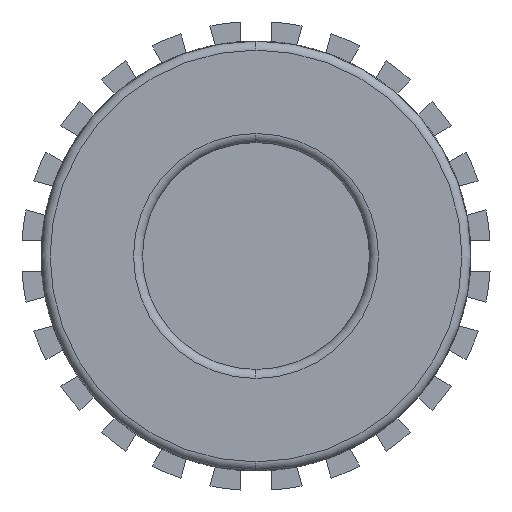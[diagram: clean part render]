
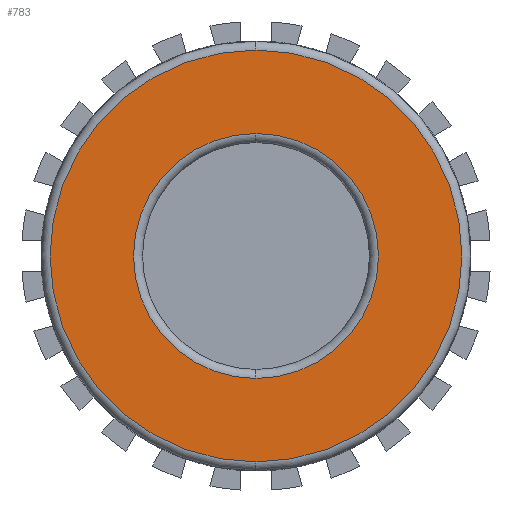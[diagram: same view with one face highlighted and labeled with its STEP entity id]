
A CAD part, left-side view. The second image highlights one B-rep face of the part: STEP entity #783.
In plain terms, the highlighted planar face has unit normal (-1, 0, 0).
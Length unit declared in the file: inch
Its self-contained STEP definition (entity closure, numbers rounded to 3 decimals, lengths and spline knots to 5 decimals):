
#246 = ORIENTED_EDGE ( 'NONE', *, *, #2324, .T. ) ;
#247 = ORIENTED_EDGE ( 'NONE', *, *, #338, .T. ) ;
#248 = ORIENTED_EDGE ( 'NONE', *, *, #336, .T. ) ;
#249 = ORIENTED_EDGE ( 'NONE', *, *, #2322, .T. ) ;
#336 = EDGE_CURVE ( 'NONE', #1458, #1679, #3317, .T. ) ;
#338 = EDGE_CURVE ( 'NONE', #1676, #1403, #3320, .T. ) ;
#532 = DIRECTION ( 'NONE',  ( 0., 0., -1. ) ) ;
#533 = DIRECTION ( 'NONE',  ( 1., 0., 0. ) ) ;
#534 = CARTESIAN_POINT ( 'NONE',  ( -3.24667, 0., 0. ) ) ;
#540 = DIRECTION ( 'NONE',  ( 0., 0., -1. ) ) ;
#541 = DIRECTION ( 'NONE',  ( -1., 0., 0. ) ) ;
#542 = CARTESIAN_POINT ( 'NONE',  ( -3.24667, 0., 0. ) ) ;
#783 = ADVANCED_FACE ( 'NONE', ( #3679, #3681 ), #1167, .F. ) ;
#1162 = DIRECTION ( 'NONE',  ( 1., 0., 0. ) ) ;
#1165 = CARTESIAN_POINT ( 'NONE',  ( -3.24667, 0., 0. ) ) ;
#1167 = PLANE ( 'NONE',  #2505 ) ;
#1169 = DIRECTION ( 'NONE',  ( 0., 0., -1. ) ) ;
#1207 = CARTESIAN_POINT ( 'NONE',  ( -3.24667, 0., -0.54333 ) ) ;
#1230 = CARTESIAN_POINT ( 'NONE',  ( -3.24667, 0., -0.91333 ) ) ;
#1256 = CARTESIAN_POINT ( 'NONE',  ( -3.24667, 0., 0.54333 ) ) ;
#1268 = CARTESIAN_POINT ( 'NONE',  ( -3.24667, 0., 0.91333 ) ) ;
#1403 = VERTEX_POINT ( 'NONE', #1207 ) ;
#1407 = EDGE_LOOP ( 'NONE', ( #246, #247 ) ) ;
#1458 = VERTEX_POINT ( 'NONE', #1230 ) ;
#1669 = EDGE_LOOP ( 'NONE', ( #248, #249 ) ) ;
#1676 = VERTEX_POINT ( 'NONE', #1256 ) ;
#1679 = VERTEX_POINT ( 'NONE', #1268 ) ;
#1793 = CARTESIAN_POINT ( 'NONE',  ( -3.24667, 0., 0. ) ) ;
#1794 = DIRECTION ( 'NONE',  ( -1., 0., 0. ) ) ;
#1795 = DIRECTION ( 'NONE',  ( 0., 0., -1. ) ) ;
#1801 = CARTESIAN_POINT ( 'NONE',  ( -3.24667, 0., 0. ) ) ;
#1802 = DIRECTION ( 'NONE',  ( 1., 0., 0. ) ) ;
#1803 = DIRECTION ( 'NONE',  ( 0., 0., -1. ) ) ;
#2322 = EDGE_CURVE ( 'NONE', #1679, #1458, #2721, .T. ) ;
#2324 = EDGE_CURVE ( 'NONE', #1403, #1676, #2723, .T. ) ;
#2353 = AXIS2_PLACEMENT_3D ( 'NONE', #542, #541, #540 ) ;
#2355 = AXIS2_PLACEMENT_3D ( 'NONE', #534, #533, #532 ) ;
#2505 = AXIS2_PLACEMENT_3D ( 'NONE', #1165, #1162, #1169 ) ;
#2558 = AXIS2_PLACEMENT_3D ( 'NONE', #1793, #1794, #1795 ) ;
#2560 = AXIS2_PLACEMENT_3D ( 'NONE', #1801, #1802, #1803 ) ;
#2721 = CIRCLE ( 'NONE', #2558, 0.91333 ) ;
#2723 = CIRCLE ( 'NONE', #2560, 0.54333 ) ;
#3317 = CIRCLE ( 'NONE', #2353, 0.91333 ) ;
#3320 = CIRCLE ( 'NONE', #2355, 0.54333 ) ;
#3679 = FACE_BOUND ( 'NONE', #1407, .T. ) ;
#3681 = FACE_OUTER_BOUND ( 'NONE', #1669, .T. ) ;
